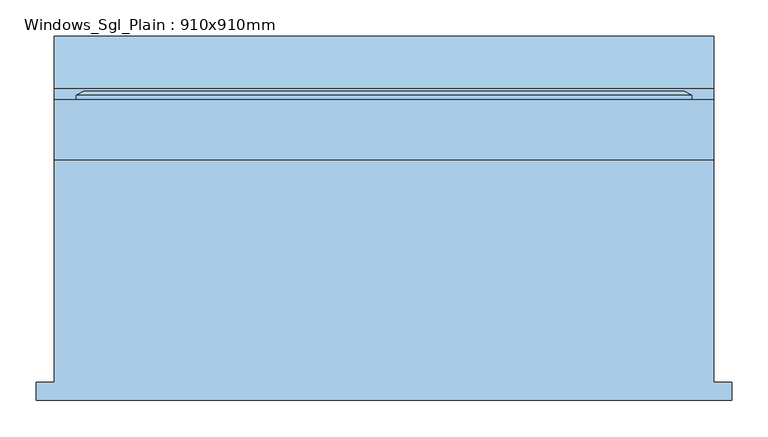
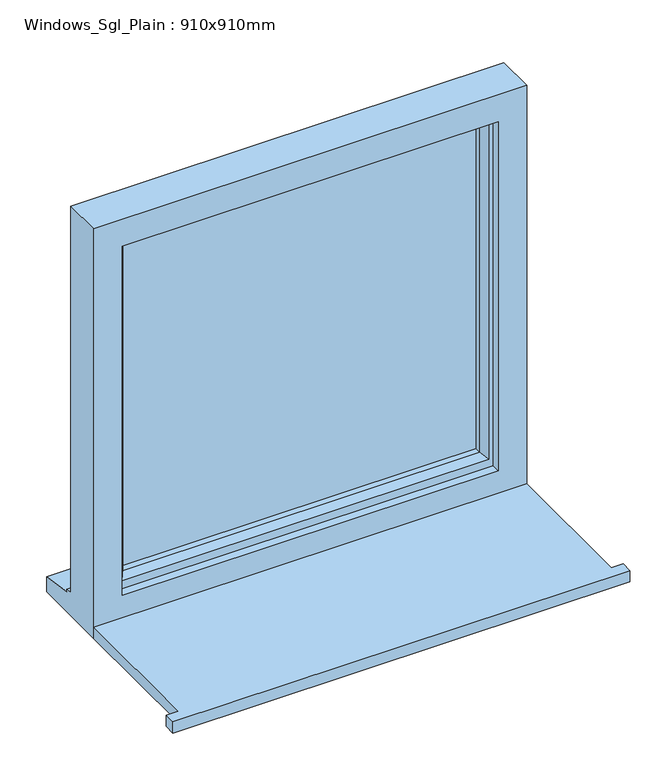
"""IFC4 building model written with IfcOpenShell, lengths in millimetres: window geometry, Windows_Sgl_Plain : 910x910mm."""

from ifc_helpers import new_model, si_unit, frame, origin, place, context, project, spatial, polyline, outline, extrude, faceted_brep, source, transform, mapped, element, save


def windows_sgl_plain_910x910mm_e463b34e(model_context):
    return source(origin(), model_context, "Body", "SolidModel", [
        extrude(outline(polyline([(-480.0, -236.5434322), (-480.0, -211.5434322), (-455.0, -211.5434322), (-455.0, 95.4565678), (455.0, 95.4565678), (455.0, -211.5434322), (480.0, -211.5434322), (480.0, -236.5434322), (-480.0, -236.5434322)])), frame((0.0, 0.0, 1200.0), z_axis=(0.0, 0.0, 1.0), x_axis=(1.0, 0.0, 0.0)), (0.0, 0.0, 1.0), 25.0),
        faceted_brep([(-455.0, 95.4565678, 1200.0), (455.0, 95.4565678, 1200.0), (455.0, 95.4565678, 2110.0), (-455.0, 95.4565678, 2110.0), (-395.0, 95.4565678, 2050.0), (395.0, 95.4565678, 2050.0), (395.0, 95.4565678, 1275.0), (-395.0, 95.4565678, 1275.0), (-455.0, 178.4565678, 2110.0), (-455.0, 178.4565678, 1251.0), (-455.0, 193.4565678, 1249.68767), (-455.0, 193.4565678, 1244.7449676), (-455.0, 265.9565678, 1233.8088847), (-455.0, 265.9565678, 1200.0), (455.0, 178.4565678, 2110.0), (455.0, 178.4565678, 1251.0), (-415.0, 178.4565678, 2070.0), (-415.0, 178.4565678, 1263.0), (415.0, 178.4565678, 1263.0), (415.0, 178.4565678, 2070.0), (-415.0, 113.4565678, 2070.0), (-415.0, 113.4565678, 1263.0), (415.0, 113.4565678, 2070.0), (415.0, 113.4565678, 1263.0), (-395.0, 113.4565678, 2050.0), (-395.0, 113.4565678, 1275.0), (395.0, 113.4565678, 1275.0), (395.0, 113.4565678, 2050.0), (455.0, 265.9565678, 1200.0), (455.0, 265.9565678, 1233.8088847), (455.0, 193.4565678, 1244.7449676), (455.0, 193.4565678, 1249.68767)], [[[0, 1, 2, 3], [4, 5, 6, 7]], [[0, 3, 8, 9, 10, 11, 12, 13]], [[9, 8, 14, 15], [16, 17, 18, 19]], [[17, 16, 20, 21]], [[20, 22, 23, 21], [24, 25, 26, 27]], [[24, 4, 7, 25]], [[3, 2, 14, 8]], [[16, 19, 22, 20]], [[5, 4, 24, 27]], [[15, 14, 2, 1, 28, 29, 30, 31]], [[19, 18, 23, 22]], [[5, 27, 26, 6]], [[28, 1, 0, 13]], [[29, 28, 13, 12]], [[30, 29, 12, 11]], [[31, 30, 11, 10]], [[15, 31, 10, 9]], [[21, 23, 18, 17]], [[7, 6, 26, 25]]]),
        extrude(outline(polyline([(385.0, 142.4565678), (-385.0, 142.4565678), (-385.0, 166.4565678), (385.0, 166.4565678), (385.0, 142.4565678)])), frame((0.0, 0.0, 1293.0), z_axis=(0.0, 0.0, 1.0), x_axis=(1.0, 0.0, 0.0)), (0.0, 0.0, 1.0), 747.0),
        faceted_brep([(-425.0, 178.4565678, 2080.0), (-425.0, 184.2300705, 2080.0), (-425.0, 184.2300705, 1253.0), (-425.0, 178.4565678, 1253.0), (-415.0, 113.4565678, 2070.0), (-415.0, 178.4565678, 2070.0), (-415.0, 178.4565678, 1263.0), (-415.0, 113.4565678, 1263.0), (-375.0, 127.9494677, 2030.0), (-385.1480377, 113.4565678, 2040.1480377), (-385.1480377, 113.4565678, 1292.8519623), (-375.0, 127.9494677, 1303.0), (-375.0, 142.4565678, 2030.0), (-375.0, 142.4565678, 1303.0), (-385.0, 166.4565678, 2040.0), (-385.0, 142.4565678, 2040.0), (-385.0, 142.4565678, 1293.0), (-385.0, 166.4565678, 1293.0), (-375.0, 184.2300705, 2030.0), (-375.0, 166.4565678, 2030.0), (-375.0, 166.4565678, 1303.0), (-375.0, 184.2300705, 1303.0), (-392.4457548, 190.0035732, 2047.4457548), (-392.4457548, 190.0035732, 1285.5542452), (-414.2153903, 190.0035732, 2069.2153903), (-414.2153903, 190.0035732, 1263.7846097), (425.0, 184.2300705, 1253.0), (425.0, 178.4565678, 1253.0), (415.0, 178.4565678, 1263.0), (415.0, 113.4565678, 1263.0), (385.1480377, 113.4565678, 1292.8519623), (375.0, 127.9494677, 1303.0), (375.0, 142.4565678, 1303.0), (385.0, 142.4565678, 1293.0), (385.0, 166.4565678, 1293.0), (375.0, 166.4565678, 1303.0), (375.0, 184.2300705, 1303.0), (392.4457548, 190.0035732, 1285.5542452), (414.2153903, 190.0035732, 1263.7846097), (425.0, 184.2300705, 2080.0), (425.0, 178.4565678, 2080.0), (415.0, 178.4565678, 2070.0), (415.0, 113.4565678, 2070.0), (385.1480377, 113.4565678, 2040.1480377), (375.0, 127.9494677, 2030.0), (375.0, 142.4565678, 2030.0), (385.0, 142.4565678, 2040.0), (385.0, 166.4565678, 2040.0), (375.0, 166.4565678, 2030.0), (375.0, 184.2300705, 2030.0), (392.4457548, 190.0035732, 2047.4457548), (414.2153903, 190.0035732, 2069.2153903)], [[[0, 1, 2, 3]], [[4, 5, 6, 7]], [[8, 9, 10, 11]], [[12, 8, 11, 13]], [[14, 15, 16, 17]], [[18, 19, 20, 21]], [[22, 18, 21, 23]], [[1, 24, 25, 2]], [[3, 2, 26, 27]], [[7, 6, 28, 29]], [[11, 10, 30, 31]], [[13, 11, 31, 32]], [[17, 16, 33, 34]], [[21, 20, 35, 36]], [[23, 21, 36, 37]], [[2, 25, 38, 26]], [[27, 26, 39, 40]], [[29, 28, 41, 42]], [[31, 30, 43, 44]], [[32, 31, 44, 45]], [[34, 33, 46, 47]], [[36, 35, 48, 49]], [[37, 36, 49, 50]], [[26, 38, 51, 39]], [[40, 39, 1, 0]], [[3, 27, 40, 0], [5, 41, 28, 6]], [[42, 41, 5, 4]], [[7, 29, 42, 4], [9, 43, 30, 10]], [[44, 43, 9, 8]], [[45, 44, 8, 12]], [[15, 46, 33, 16], [13, 32, 45, 12]], [[47, 46, 15, 14]], [[17, 34, 47, 14], [19, 48, 35, 20]], [[49, 48, 19, 18]], [[50, 49, 18, 22]], [[24, 51, 38, 25], [23, 37, 50, 22]], [[39, 51, 24, 1]]]),
    ])


if __name__ == "__main__":
    model = new_model("IFC4")
    model_context = context("Model", 3, world=origin())
    ifc_project = project(units=[si_unit("LENGTHUNIT", "METRE", prefix="MILLI")], contexts=[model_context])
    site = spatial("IfcSite", under=ifc_project)
    building = spatial("IfcBuilding", under=site)
    placement = place(None, origin())
    windows_sgl_plain_910x910mm_shape = windows_sgl_plain_910x910mm_e463b34e(model_context)
    element("IfcWindow", 1, ObjectType="Windows_Sgl_Plain : 910x910mm", at=placement, inside=building, context=model_context, shape_type="MappedRepresentation", body=[
        mapped(windows_sgl_plain_910x910mm_shape, transform((0.0, 0.0, 0.0), x_axis=(1.0, 0.0, 0.0), y_axis=(0.0, 1.0, 0.0), z_axis=(0.0, 0.0, 1.0))),
    ])
    save(model, "model.ifc")
